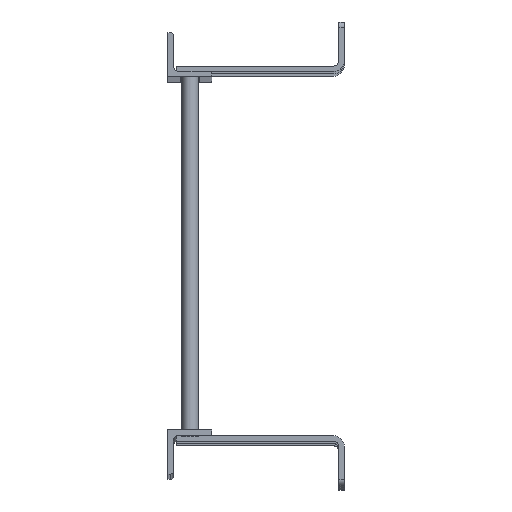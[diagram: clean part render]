
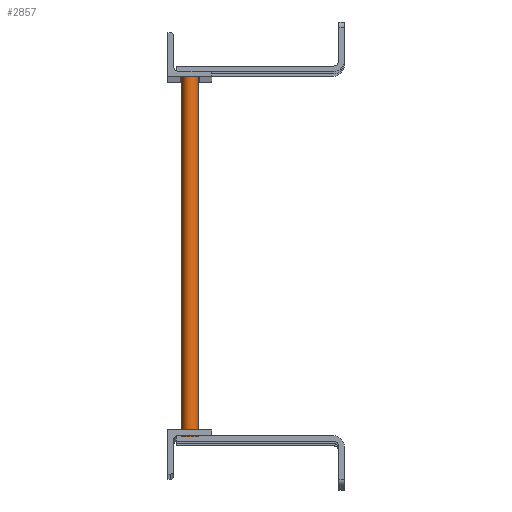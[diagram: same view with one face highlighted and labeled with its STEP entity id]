
A CAD part, top view. The second image highlights one B-rep face of the part: STEP entity #2857.
In plain terms, the highlighted cylindrical face has radius 9.525 mm (diameter 19.05 mm), a full revolution.
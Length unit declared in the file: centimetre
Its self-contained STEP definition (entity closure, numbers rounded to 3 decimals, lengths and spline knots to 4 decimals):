
#538=FACE_BOUND('',#809,.T.);
#640=FACE_OUTER_BOUND('',#808,.T.);
#808=EDGE_LOOP('',(#1870));
#809=EDGE_LOOP('',(#1871));
#1078=CIRCLE('',#3041,0.9525);
#1079=CIRCLE('',#3042,0.9525);
#1236=VERTEX_POINT('',#4230);
#1237=VERTEX_POINT('',#4232);
#1504=EDGE_CURVE('',#1236,#1236,#1078,.T.);
#1505=EDGE_CURVE('',#1237,#1237,#1079,.T.);
#1870=ORIENTED_EDGE('',*,*,#1504,.T.);
#1871=ORIENTED_EDGE('',*,*,#1505,.F.);
#2602=CYLINDRICAL_SURFACE('',#3040,0.9525);
#2857=ADVANCED_FACE('',(#640,#538),#2602,.T.);
#3040=AXIS2_PLACEMENT_3D('',#4229,#3368,#3369);
#3041=AXIS2_PLACEMENT_3D('',#4231,#3370,#3371);
#3042=AXIS2_PLACEMENT_3D('',#4233,#3372,#3373);
#3368=DIRECTION('center_axis',(0.,-1.,0.));
#3369=DIRECTION('ref_axis',(1.,0.,0.));
#3370=DIRECTION('center_axis',(0.,1.,0.));
#3371=DIRECTION('ref_axis',(1.,0.,0.));
#3372=DIRECTION('center_axis',(0.,1.,0.));
#3373=DIRECTION('ref_axis',(1.,0.,0.));
#4229=CARTESIAN_POINT('Origin',(2.54,0.4762,339.09));
#4230=CARTESIAN_POINT('',(1.5875,-41.4338,339.09));
#4231=CARTESIAN_POINT('Origin',(2.54,-41.4338,339.09));
#4232=CARTESIAN_POINT('',(1.5875,0.4762,339.09));
#4233=CARTESIAN_POINT('Origin',(2.54,0.4762,339.09));
